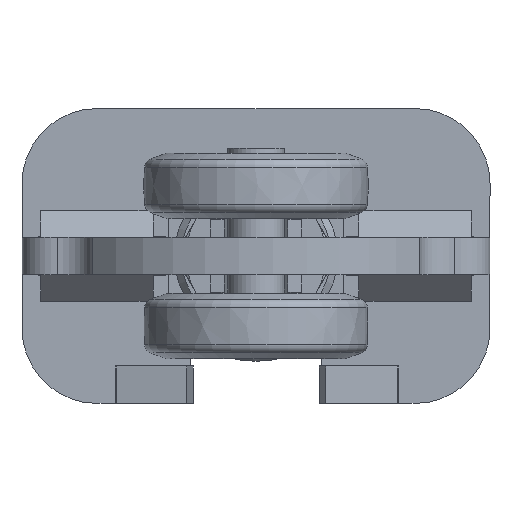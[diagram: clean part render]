
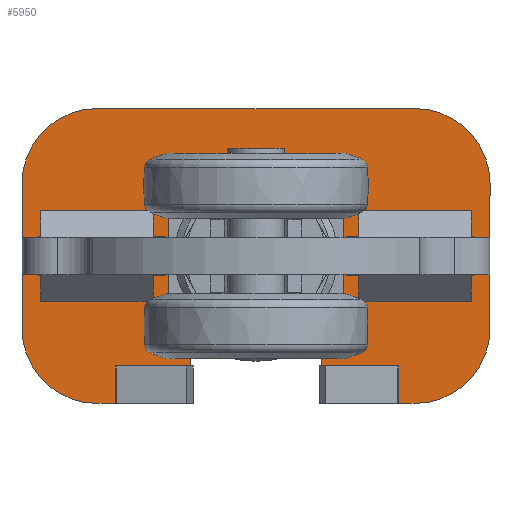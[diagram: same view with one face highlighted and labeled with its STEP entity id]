
A CAD part, front view. The second image highlights one B-rep face of the part: STEP entity #5950.
In plain terms, the highlighted planar face has unit normal (0, -1, 0) as drawn and (0, 0, 1) by its records, which use the part's own axes.
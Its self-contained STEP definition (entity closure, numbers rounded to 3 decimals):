
#172=FACE_BOUND('',#1144,.T.);
#173=FACE_BOUND('',#1145,.T.);
#259=CIRCLE('',#6349,16.);
#260=CIRCLE('',#6350,16.);
#261=CIRCLE('',#6351,16.);
#262=CIRCLE('',#6352,16.);
#263=CIRCLE('',#6353,14.);
#783=FACE_OUTER_BOUND('',#1143,.T.);
#1143=EDGE_LOOP('',(#4233,#4234,#4235,#4236,#4237,#4238,#4239,#4240,#4241,
#4242,#4243,#4244,#4245,#4246,#4247,#4248,#4249,#4250,#4251,#4252));
#1144=EDGE_LOOP('',(#4253,#4254,#4255,#4256));
#1145=EDGE_LOOP('',(#4257,#4258,#4259,#4260));
#1602=LINE('',#9070,#2104);
#1614=LINE('',#9094,#2116);
#1618=LINE('',#9102,#2120);
#1620=LINE('',#9106,#2122);
#1623=LINE('',#9112,#2125);
#1624=LINE('',#9116,#2126);
#1625=LINE('',#9120,#2127);
#1626=LINE('',#9124,#2128);
#1627=LINE('',#9128,#2129);
#1628=LINE('',#9130,#2130);
#1629=LINE('',#9132,#2131);
#1630=LINE('',#9134,#2132);
#1631=LINE('',#9136,#2133);
#1632=LINE('',#9138,#2134);
#1633=LINE('',#9141,#2135);
#1634=LINE('',#9144,#2136);
#1635=LINE('',#9146,#2137);
#1636=LINE('',#9148,#2138);
#1637=LINE('',#9149,#2139);
#1638=LINE('',#9152,#2140);
#1639=LINE('',#9154,#2141);
#1640=LINE('',#9156,#2142);
#1641=LINE('',#9157,#2143);
#2104=VECTOR('',#7192,8.);
#2116=VECTOR('',#7218,0.1);
#2120=VECTOR('',#7224,0.1);
#2122=VECTOR('',#7228,16.494);
#2125=VECTOR('',#7233,3.606);
#2126=VECTOR('',#7236,31.);
#2127=VECTOR('',#7239,68.);
#2128=VECTOR('',#7242,31.);
#2129=VECTOR('',#7245,4.);
#2130=VECTOR('',#7246,8.);
#2131=VECTOR('',#7247,0.1);
#2132=VECTOR('',#7248,0.1);
#2133=VECTOR('',#7249,16.1);
#2134=VECTOR('',#7250,23.4);
#2135=VECTOR('',#7253,23.4);
#2136=VECTOR('',#7254,8.2);
#2137=VECTOR('',#7255,27.1);
#2138=VECTOR('',#7256,8.2);
#2139=VECTOR('',#7257,27.1);
#2140=VECTOR('',#7258,8.2);
#2141=VECTOR('',#7259,27.1);
#2142=VECTOR('',#7260,8.2);
#2143=VECTOR('',#7261,27.1);
#2587=VERTEX_POINT('',#9057);
#2590=VERTEX_POINT('',#9064);
#2596=VERTEX_POINT('',#9093);
#2599=VERTEX_POINT('',#9101);
#2600=VERTEX_POINT('',#9105);
#2602=VERTEX_POINT('',#9111);
#2603=VERTEX_POINT('',#9113);
#2604=VERTEX_POINT('',#9115);
#2605=VERTEX_POINT('',#9117);
#2606=VERTEX_POINT('',#9119);
#2607=VERTEX_POINT('',#9121);
#2608=VERTEX_POINT('',#9123);
#2609=VERTEX_POINT('',#9125);
#2610=VERTEX_POINT('',#9127);
#2611=VERTEX_POINT('',#9129);
#2612=VERTEX_POINT('',#9131);
#2613=VERTEX_POINT('',#9133);
#2614=VERTEX_POINT('',#9135);
#2615=VERTEX_POINT('',#9137);
#2616=VERTEX_POINT('',#9139);
#2617=VERTEX_POINT('',#9142);
#2618=VERTEX_POINT('',#9143);
#2619=VERTEX_POINT('',#9145);
#2620=VERTEX_POINT('',#9147);
#2621=VERTEX_POINT('',#9150);
#2622=VERTEX_POINT('',#9151);
#2623=VERTEX_POINT('',#9153);
#2624=VERTEX_POINT('',#9155);
#3217=EDGE_CURVE('',#2587,#2590,#1602,.T.);
#3229=EDGE_CURVE('',#2596,#2587,#1614,.T.);
#3233=EDGE_CURVE('',#2599,#2596,#1618,.T.);
#3235=EDGE_CURVE('',#2599,#2600,#1620,.T.);
#3238=EDGE_CURVE('',#2602,#2590,#1623,.T.);
#3239=EDGE_CURVE('',#2603,#2602,#259,.T.);
#3240=EDGE_CURVE('',#2604,#2603,#1624,.T.);
#3241=EDGE_CURVE('',#2605,#2604,#260,.T.);
#3242=EDGE_CURVE('',#2606,#2605,#1625,.T.);
#3243=EDGE_CURVE('',#2607,#2606,#261,.T.);
#3244=EDGE_CURVE('',#2608,#2607,#1626,.T.);
#3245=EDGE_CURVE('',#2609,#2608,#262,.T.);
#3246=EDGE_CURVE('',#2610,#2609,#1627,.T.);
#3247=EDGE_CURVE('',#2610,#2611,#1628,.T.);
#3248=EDGE_CURVE('',#2611,#2612,#1629,.T.);
#3249=EDGE_CURVE('',#2612,#2613,#1630,.T.);
#3250=EDGE_CURVE('',#2613,#2614,#1631,.T.);
#3251=EDGE_CURVE('',#2615,#2614,#1632,.T.);
#3252=EDGE_CURVE('',#2616,#2615,#263,.T.);
#3253=EDGE_CURVE('',#2600,#2616,#1633,.T.);
#3254=EDGE_CURVE('',#2617,#2618,#1634,.T.);
#3255=EDGE_CURVE('',#2618,#2619,#1635,.T.);
#3256=EDGE_CURVE('',#2619,#2620,#1636,.T.);
#3257=EDGE_CURVE('',#2620,#2617,#1637,.T.);
#3258=EDGE_CURVE('',#2621,#2622,#1638,.T.);
#3259=EDGE_CURVE('',#2622,#2623,#1639,.T.);
#3260=EDGE_CURVE('',#2623,#2624,#1640,.T.);
#3261=EDGE_CURVE('',#2624,#2621,#1641,.T.);
#4233=ORIENTED_EDGE('',*,*,#3235,.F.);
#4234=ORIENTED_EDGE('',*,*,#3233,.T.);
#4235=ORIENTED_EDGE('',*,*,#3229,.T.);
#4236=ORIENTED_EDGE('',*,*,#3217,.T.);
#4237=ORIENTED_EDGE('',*,*,#3238,.F.);
#4238=ORIENTED_EDGE('',*,*,#3239,.F.);
#4239=ORIENTED_EDGE('',*,*,#3240,.F.);
#4240=ORIENTED_EDGE('',*,*,#3241,.F.);
#4241=ORIENTED_EDGE('',*,*,#3242,.F.);
#4242=ORIENTED_EDGE('',*,*,#3243,.F.);
#4243=ORIENTED_EDGE('',*,*,#3244,.F.);
#4244=ORIENTED_EDGE('',*,*,#3245,.F.);
#4245=ORIENTED_EDGE('',*,*,#3246,.F.);
#4246=ORIENTED_EDGE('',*,*,#3247,.T.);
#4247=ORIENTED_EDGE('',*,*,#3248,.T.);
#4248=ORIENTED_EDGE('',*,*,#3249,.T.);
#4249=ORIENTED_EDGE('',*,*,#3250,.T.);
#4250=ORIENTED_EDGE('',*,*,#3251,.F.);
#4251=ORIENTED_EDGE('',*,*,#3252,.F.);
#4252=ORIENTED_EDGE('',*,*,#3253,.F.);
#4253=ORIENTED_EDGE('',*,*,#3254,.T.);
#4254=ORIENTED_EDGE('',*,*,#3255,.T.);
#4255=ORIENTED_EDGE('',*,*,#3256,.T.);
#4256=ORIENTED_EDGE('',*,*,#3257,.T.);
#4257=ORIENTED_EDGE('',*,*,#3258,.T.);
#4258=ORIENTED_EDGE('',*,*,#3259,.T.);
#4259=ORIENTED_EDGE('',*,*,#3260,.T.);
#4260=ORIENTED_EDGE('',*,*,#3261,.T.);
#5752=PLANE('',#6348);
#5950=ADVANCED_FACE('',(#783,#172,#173),#5752,.T.);
#6348=AXIS2_PLACEMENT_3D('',#9110,#7231,#7232);
#6349=AXIS2_PLACEMENT_3D('',#9114,#7234,#7235);
#6350=AXIS2_PLACEMENT_3D('',#9118,#7237,#7238);
#6351=AXIS2_PLACEMENT_3D('',#9122,#7240,#7241);
#6352=AXIS2_PLACEMENT_3D('',#9126,#7243,#7244);
#6353=AXIS2_PLACEMENT_3D('',#9140,#7251,#7252);
#7192=DIRECTION('',(0.,-1.,0.));
#7218=DIRECTION('',(-1.,0.,0.));
#7224=DIRECTION('',(0.,-1.,0.));
#7228=DIRECTION('',(-1.,0.,0.));
#7231=DIRECTION('center_axis',(0.,0.,1.));
#7232=DIRECTION('ref_axis',(1.,0.,0.));
#7233=DIRECTION('',(-1.,0.,0.));
#7234=DIRECTION('center_axis',(0.,0.,-1.));
#7235=DIRECTION('ref_axis',(0.,-1.,0.));
#7236=DIRECTION('',(0.,-1.,0.));
#7237=DIRECTION('center_axis',(0.,0.,-1.));
#7238=DIRECTION('ref_axis',(1.,0.,0.));
#7239=DIRECTION('',(1.,0.,0.));
#7240=DIRECTION('center_axis',(0.,0.,-1.));
#7241=DIRECTION('ref_axis',(0.,1.,0.));
#7242=DIRECTION('',(0.,1.,0.));
#7243=DIRECTION('center_axis',(0.,0.,-1.));
#7244=DIRECTION('ref_axis',(-1.,0.,0.));
#7245=DIRECTION('',(-1.,0.,0.));
#7246=DIRECTION('',(0.,1.,0.));
#7247=DIRECTION('',(-1.,0.,0.));
#7248=DIRECTION('',(0.,1.,0.));
#7249=DIRECTION('',(1.,0.,0.));
#7250=DIRECTION('',(0.,-1.,0.));
#7251=DIRECTION('center_axis',(0.,0.,1.));
#7252=DIRECTION('ref_axis',(-1.,0.,0.));
#7253=DIRECTION('',(0.,1.,0.));
#7254=DIRECTION('',(0.,-1.,0.));
#7255=DIRECTION('',(-1.,0.,0.));
#7256=DIRECTION('',(0.,1.,0.));
#7257=DIRECTION('',(1.,0.,0.));
#7258=DIRECTION('',(0.,-1.,0.));
#7259=DIRECTION('',(-1.,0.,0.));
#7260=DIRECTION('',(0.,1.,0.));
#7261=DIRECTION('',(1.,0.,0.));
#9057=CARTESIAN_POINT('',(30.394,-23.5,8.));
#9064=CARTESIAN_POINT('',(30.394,-31.5,8.));
#9070=CARTESIAN_POINT('',(30.394,-17.174,8.));
#9093=CARTESIAN_POINT('',(30.494,-23.5,8.));
#9094=CARTESIAN_POINT('',(14.753,-23.5,8.));
#9101=CARTESIAN_POINT('',(30.494,-23.4,8.));
#9102=CARTESIAN_POINT('',(30.494,-13.174,8.));
#9105=CARTESIAN_POINT('',(14.,-23.4,8.));
#9106=CARTESIAN_POINT('',(14.,-23.4,8.));
#9110=CARTESIAN_POINT('Origin',(0.,-2.848,
8.));
#9111=CARTESIAN_POINT('',(34.,-31.5,8.));
#9112=CARTESIAN_POINT('',(-34.,-31.5,8.));
#9113=CARTESIAN_POINT('',(50.,-15.5,8.));
#9114=CARTESIAN_POINT('Origin',(34.,-15.5,8.));
#9115=CARTESIAN_POINT('',(50.,15.5,8.));
#9116=CARTESIAN_POINT('',(50.,-15.5,8.));
#9117=CARTESIAN_POINT('',(34.,31.5,8.));
#9118=CARTESIAN_POINT('Origin',(34.,15.5,8.));
#9119=CARTESIAN_POINT('',(-34.,31.5,8.));
#9120=CARTESIAN_POINT('',(34.,31.5,8.));
#9121=CARTESIAN_POINT('',(-50.,15.5,8.));
#9122=CARTESIAN_POINT('Origin',(-34.,15.5,8.));
#9123=CARTESIAN_POINT('',(-50.,-15.5,8.));
#9124=CARTESIAN_POINT('',(-50.,15.5,8.));
#9125=CARTESIAN_POINT('',(-34.,-31.5,8.));
#9126=CARTESIAN_POINT('Origin',(-34.,-15.5,8.));
#9127=CARTESIAN_POINT('',(-30.,-31.5,8.));
#9128=CARTESIAN_POINT('',(-34.,-31.5,8.));
#9129=CARTESIAN_POINT('',(-30.,-23.5,8.));
#9130=CARTESIAN_POINT('',(-30.,-13.174,8.));
#9131=CARTESIAN_POINT('',(-30.1,-23.5,8.));
#9132=CARTESIAN_POINT('',(-15.05,-23.5,8.));
#9133=CARTESIAN_POINT('',(-30.1,-23.4,8.));
#9134=CARTESIAN_POINT('',(-30.1,-13.124,8.));
#9135=CARTESIAN_POINT('',(-14.,-23.4,8.));
#9136=CARTESIAN_POINT('',(-14.556,-23.4,8.));
#9137=CARTESIAN_POINT('',(-14.,0.,8.));
#9138=CARTESIAN_POINT('',(-14.,-23.4,8.));
#9139=CARTESIAN_POINT('',(14.,0.,8.));
#9140=CARTESIAN_POINT('Origin',(0.,0.,
8.));
#9141=CARTESIAN_POINT('',(14.,0.,8.));
#9142=CARTESIAN_POINT('',(-19.4,4.1,8.));
#9143=CARTESIAN_POINT('',(-19.4,-4.1,8.));
#9144=CARTESIAN_POINT('',(-19.4,0.626,8.));
#9145=CARTESIAN_POINT('',(-46.5,-4.1,8.));
#9146=CARTESIAN_POINT('',(-9.7,-4.1,8.));
#9147=CARTESIAN_POINT('',(-46.5,4.1,8.));
#9148=CARTESIAN_POINT('',(-46.5,-3.474,8.));
#9149=CARTESIAN_POINT('',(-23.25,4.1,8.));
#9150=CARTESIAN_POINT('',(46.5,4.1,8.));
#9151=CARTESIAN_POINT('',(46.5,-4.1,8.));
#9152=CARTESIAN_POINT('',(46.5,0.626,8.));
#9153=CARTESIAN_POINT('',(19.4,-4.1,8.));
#9154=CARTESIAN_POINT('',(23.25,-4.1,8.));
#9155=CARTESIAN_POINT('',(19.4,4.1,8.));
#9156=CARTESIAN_POINT('',(19.4,-3.474,8.));
#9157=CARTESIAN_POINT('',(9.7,4.1,8.));
